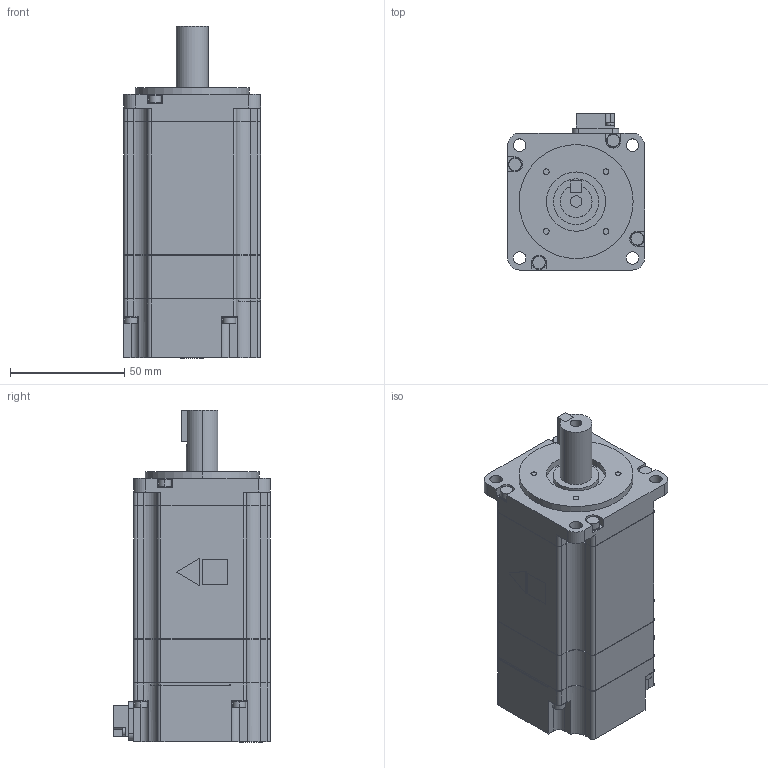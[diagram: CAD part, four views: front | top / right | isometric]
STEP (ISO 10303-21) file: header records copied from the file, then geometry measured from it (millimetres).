
FILE_DESCRIPTION (( 'STEP AP203' ), '1' );
FILE_NAME ('sgm7j_06a6a61.STEP', '2016-11-12T04:57:01', ( '匠エンジニアリング山之内' ), ( 'TAKUMI-Engniaring' ), 'SwSTEP 2.0', 'SolidWorks 2006303', '' );
FILE_SCHEMA (( 'CONFIG_CONTROL_DESIGN' ));
Length unit declared in the file: millimetre
Products named in the file (3): sgm7j_06a6a61; sgm7j_06a6a61_base; sgm7j_06a6a61_key
Assembly tree (2 placements, depth 2):
  sgm7j_06a6a61
    sgm7j_06a6a61_base
    sgm7j_06a6a61_key
Bounding box: 60.1 x 68.8 x 145.6 mm (x, y, z)
Volume: 376530.2 mm3; surface area: 39271.7 mm2
Topology: 2 solids, 2 shells, 429 faces, 1123 edges, 746 vertices
Faces by surface type: plane 240, cylinder 189
Entity records: 13639 total; most frequent: DIRECTION 2374, CARTESIAN_POINT 2349, ORIENTED_EDGE 2246, EDGE_CURVE 1123, AXIS2_PLACEMENT_3D 821, VERTEX_POINT 746, VECTOR 732, LINE 732
